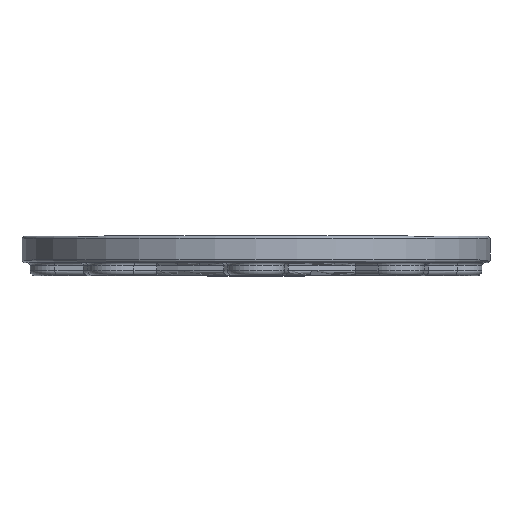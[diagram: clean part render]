
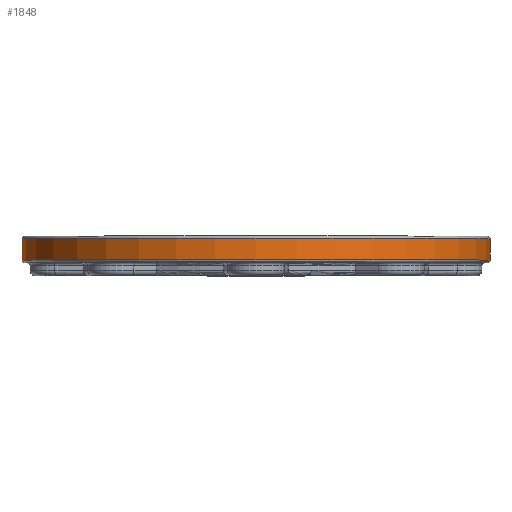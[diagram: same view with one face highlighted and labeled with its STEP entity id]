
A CAD part, top view. The second image highlights one B-rep face of the part: STEP entity #1848.
In plain terms, the highlighted cylindrical face has radius 142.5 mm (diameter 285 mm), a full revolution.
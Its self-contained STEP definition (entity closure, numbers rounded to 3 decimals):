
#112=CYLINDRICAL_SURFACE('',#2038,142.5);
#210=CIRCLE('',#2039,142.5);
#211=CIRCLE('',#2040,142.5);
#383=ORIENTED_EDGE('',*,*,#890,.T.);
#384=ORIENTED_EDGE('',*,*,#891,.T.);
#890=EDGE_CURVE('',#1154,#1154,#210,.F.);
#891=EDGE_CURVE('',#1155,#1155,#211,.T.);
#1154=VERTEX_POINT('',#3014);
#1155=VERTEX_POINT('',#3016);
#1504=EDGE_LOOP('',(#383));
#1505=EDGE_LOOP('',(#384));
#1682=FACE_BOUND('',#1504,.T.);
#1683=FACE_BOUND('',#1505,.T.);
#1848=ADVANCED_FACE('',(#1682,#1683),#112,.T.);
#2038=AXIS2_PLACEMENT_3D('',#3012,#2392,#2393);
#2039=AXIS2_PLACEMENT_3D('',#3013,#2394,#2395);
#2040=AXIS2_PLACEMENT_3D('',#3015,#2396,#2397);
#2392=DIRECTION('',(0.,-1.,0.));
#2393=DIRECTION('',(0.,0.,-1.));
#2394=DIRECTION('',(0.,1.,0.));
#2395=DIRECTION('',(0.,0.,1.));
#2396=DIRECTION('',(0.,1.,0.));
#2397=DIRECTION('',(0.,0.,1.));
#3012=CARTESIAN_POINT('',(0.,24.,0.));
#3013=CARTESIAN_POINT('',(0.,22.5,0.));
#3014=CARTESIAN_POINT('',(0.,22.5,142.5));
#3015=CARTESIAN_POINT('',(0.,9.5,0.));
#3016=CARTESIAN_POINT('',(0.,9.5,142.5));
